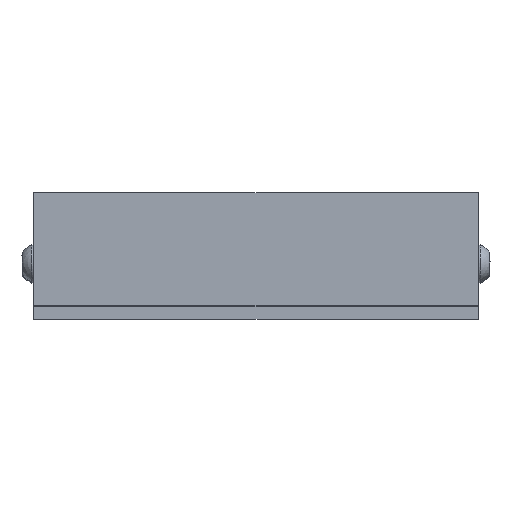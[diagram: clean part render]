
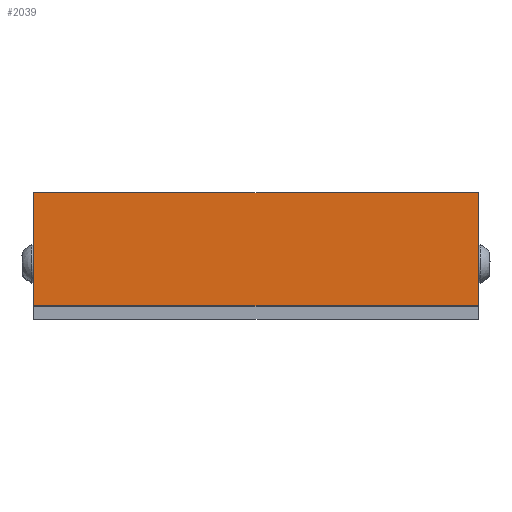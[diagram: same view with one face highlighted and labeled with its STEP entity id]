
A CAD part, top view. The second image highlights one B-rep face of the part: STEP entity #2039.
In plain terms, the highlighted planar face has unit normal (0, 0, 1) as drawn and (1, 0, 0) by its records, which use the part's own axes.
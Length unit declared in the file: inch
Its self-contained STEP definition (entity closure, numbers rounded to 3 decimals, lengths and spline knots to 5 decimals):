
#28 = VECTOR ( 'NONE', #952, 39.37008 ) ;
#45 = DIRECTION ( 'NONE',  ( 0., 0., -1. ) ) ;
#317 = DIRECTION ( 'NONE',  ( 0., 0., 1. ) ) ;
#332 = CARTESIAN_POINT ( 'NONE',  ( 4., 0.00272, 2.475 ) ) ;
#477 = EDGE_CURVE ( 'NONE', #2195, #2554, #1101, .T. ) ;
#522 = CARTESIAN_POINT ( 'NONE',  ( 4., 0.98698, -2.475 ) ) ;
#546 = DIRECTION ( 'NONE',  ( 0., 0., -1. ) ) ;
#806 = DIRECTION ( 'NONE',  ( 0., 1., 0. ) ) ;
#876 = LINE ( 'NONE', #3846, #2420 ) ;
#952 = DIRECTION ( 'NONE',  ( 0., -1., 0. ) ) ;
#1101 = LINE ( 'NONE', #522, #1657 ) ;
#1397 = ORIENTED_EDGE ( 'NONE', *, *, #477, .T. ) ;
#1415 = CARTESIAN_POINT ( 'NONE',  ( 4., 1.26257, 2.475 ) ) ;
#1508 = EDGE_CURVE ( 'NONE', #3224, #2195, #876, .T. ) ;
#1657 = VECTOR ( 'NONE', #806, 39.37008 ) ;
#2010 = ORIENTED_EDGE ( 'NONE', *, *, #2313, .T. ) ;
#2039 = ADVANCED_FACE ( 'NONE', ( #3847 ), #3870, .F. ) ;
#2113 = CARTESIAN_POINT ( 'NONE',  ( 4., 0.98698, 4.73237 ) ) ;
#2195 = VERTEX_POINT ( 'NONE', #2894 ) ;
#2213 = LINE ( 'NONE', #3674, #2959 ) ;
#2241 = ORIENTED_EDGE ( 'NONE', *, *, #1508, .T. ) ;
#2313 = EDGE_CURVE ( 'NONE', #2888, #3224, #2774, .T. ) ;
#2420 = VECTOR ( 'NONE', #546, 39.37008 ) ;
#2461 = CARTESIAN_POINT ( 'NONE',  ( 4., 0.98698, 2.475 ) ) ;
#2554 = VERTEX_POINT ( 'NONE', #2670 ) ;
#2670 = CARTESIAN_POINT ( 'NONE',  ( 4., 1.26257, -2.475 ) ) ;
#2774 = LINE ( 'NONE', #2461, #28 ) ;
#2888 = VERTEX_POINT ( 'NONE', #1415 ) ;
#2894 = CARTESIAN_POINT ( 'NONE',  ( 4., 0.00272, -2.475 ) ) ;
#2959 = VECTOR ( 'NONE', #45, 39.37008 ) ;
#3224 = VERTEX_POINT ( 'NONE', #332 ) ;
#3310 = DIRECTION ( 'NONE',  ( -1., 0., 0. ) ) ;
#3427 = AXIS2_PLACEMENT_3D ( 'NONE', #2113, #3310, #317 ) ;
#3674 = CARTESIAN_POINT ( 'NONE',  ( 4., 1.26257, 2.475 ) ) ;
#3689 = EDGE_CURVE ( 'NONE', #2888, #2554, #2213, .T. ) ;
#3799 = EDGE_LOOP ( 'NONE', ( #1397, #3877, #2010, #2241 ) ) ;
#3846 = CARTESIAN_POINT ( 'NONE',  ( 4., 0.00272, 4.73237 ) ) ;
#3847 = FACE_OUTER_BOUND ( 'NONE', #3799, .T. ) ;
#3870 = PLANE ( 'NONE',  #3427 ) ;
#3877 = ORIENTED_EDGE ( 'NONE', *, *, #3689, .F. ) ;
